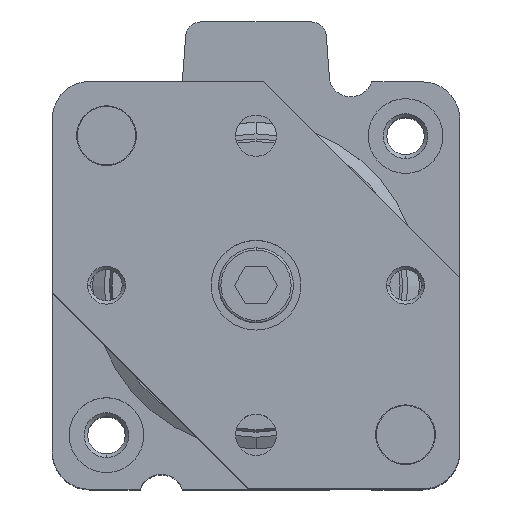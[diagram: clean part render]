
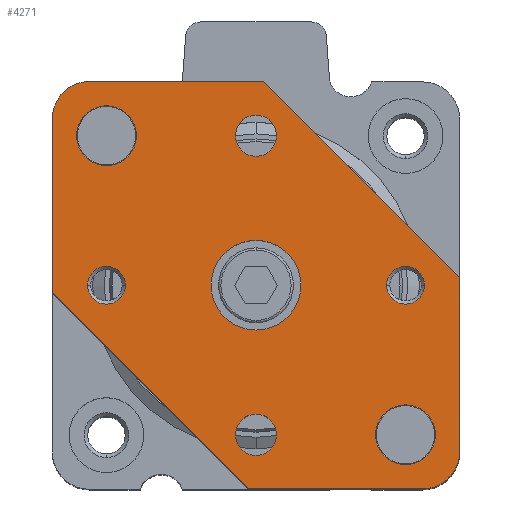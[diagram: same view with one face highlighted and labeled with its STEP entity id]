
A CAD part, top view. The second image highlights one B-rep face of the part: STEP entity #4271.
In plain terms, the highlighted planar face has unit normal (0, 0, 1).
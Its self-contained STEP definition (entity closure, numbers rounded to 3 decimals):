
#3211=CARTESIAN_POINT('',(0.,20.,0.));
#3212=DIRECTION('',(0.,0.,1.));
#3213=DIRECTION('',(-1.,0.,0.));
#3214=AXIS2_PLACEMENT_3D('',#3211,#3212,#3213);
#3216=CARTESIAN_POINT('',(0.,20.,0.));
#3217=DIRECTION('',(0.,0.,1.));
#3218=DIRECTION('',(1.,0.,0.));
#3219=AXIS2_PLACEMENT_3D('',#3216,#3217,#3218);
#3221=CARTESIAN_POINT('',(0.,-20.,0.));
#3222=DIRECTION('',(0.,0.,1.));
#3223=DIRECTION('',(-1.,0.,0.));
#3224=AXIS2_PLACEMENT_3D('',#3221,#3222,#3223);
#3226=CARTESIAN_POINT('',(0.,-20.,0.));
#3227=DIRECTION('',(0.,0.,1.));
#3228=DIRECTION('',(1.,0.,0.));
#3229=AXIS2_PLACEMENT_3D('',#3226,#3227,#3228);
#3231=DIRECTION('',(0.707,-0.707,0.));
#3232=VECTOR('',#3231,37.075);
#3233=CARTESIAN_POINT('',(1.034,27.25,0.));
#3234=LINE('',#3233,#3232);
#3235=DIRECTION('',(0.,-1.,0.));
#3236=VECTOR('',#3235,23.284);
#3237=CARTESIAN_POINT('',(27.25,1.034,0.));
#3238=LINE('',#3237,#3236);
#3239=CARTESIAN_POINT('',(22.25,-22.25,0.));
#3240=DIRECTION('',(0.,0.,-1.));
#3241=DIRECTION('',(1.,0.,0.));
#3242=AXIS2_PLACEMENT_3D('',#3239,#3240,#3241);
#3244=DIRECTION('',(-1.,0.,0.));
#3245=VECTOR('',#3244,23.284);
#3246=CARTESIAN_POINT('',(22.25,-27.25,0.));
#3247=LINE('',#3246,#3245);
#3248=DIRECTION('',(-0.707,0.707,0.));
#3249=VECTOR('',#3248,37.075);
#3250=CARTESIAN_POINT('',(-1.034,-27.25,0.));
#3251=LINE('',#3250,#3249);
#3252=DIRECTION('',(0.,1.,0.));
#3253=VECTOR('',#3252,23.284);
#3254=CARTESIAN_POINT('',(-27.25,-1.034,0.));
#3255=LINE('',#3254,#3253);
#3256=CARTESIAN_POINT('',(-22.25,22.25,0.));
#3257=DIRECTION('',(0.,0.,-1.));
#3258=DIRECTION('',(-1.,0.,0.));
#3259=AXIS2_PLACEMENT_3D('',#3256,#3257,#3258);
#3261=DIRECTION('',(1.,0.,0.));
#3262=VECTOR('',#3261,23.284);
#3263=CARTESIAN_POINT('',(-22.25,27.25,0.));
#3264=LINE('',#3263,#3262);
#3265=CARTESIAN_POINT('',(0.,0.,0.));
#3266=DIRECTION('',(0.,0.,1.));
#3267=DIRECTION('',(0.,1.,0.));
#3268=AXIS2_PLACEMENT_3D('',#3265,#3266,#3267);
#3270=CARTESIAN_POINT('',(0.,0.,0.));
#3271=DIRECTION('',(0.,0.,1.));
#3272=DIRECTION('',(0.,-1.,0.));
#3273=AXIS2_PLACEMENT_3D('',#3270,#3271,#3272);
#3285=CARTESIAN_POINT('',(-20.,20.,0.));
#3286=DIRECTION('',(0.,0.,1.));
#3287=DIRECTION('',(1.,0.,0.));
#3288=AXIS2_PLACEMENT_3D('',#3285,#3286,#3287);
#3290=CARTESIAN_POINT('',(-20.,20.,0.));
#3291=DIRECTION('',(0.,0.,1.));
#3292=DIRECTION('',(-1.,0.,0.));
#3293=AXIS2_PLACEMENT_3D('',#3290,#3291,#3292);
#3305=CARTESIAN_POINT('',(20.,-20.,0.));
#3306=DIRECTION('',(0.,0.,1.));
#3307=DIRECTION('',(1.,0.,0.));
#3308=AXIS2_PLACEMENT_3D('',#3305,#3306,#3307);
#3310=CARTESIAN_POINT('',(20.,-20.,0.));
#3311=DIRECTION('',(0.,0.,1.));
#3312=DIRECTION('',(-1.,0.,0.));
#3313=AXIS2_PLACEMENT_3D('',#3310,#3311,#3312);
#3478=CARTESIAN_POINT('',(20.,0.,0.));
#3479=DIRECTION('',(0.,0.,1.));
#3480=DIRECTION('',(1.,0.,0.));
#3481=AXIS2_PLACEMENT_3D('',#3478,#3479,#3480);
#3488=CARTESIAN_POINT('',(20.,0.,0.));
#3489=DIRECTION('',(0.,0.,1.));
#3490=DIRECTION('',(-1.,0.,0.));
#3491=AXIS2_PLACEMENT_3D('',#3488,#3489,#3490);
#3542=CARTESIAN_POINT('',(-20.,0.,0.));
#3543=DIRECTION('',(0.,0.,1.));
#3544=DIRECTION('',(1.,0.,0.));
#3545=AXIS2_PLACEMENT_3D('',#3542,#3543,#3544);
#3552=CARTESIAN_POINT('',(-20.,0.,0.));
#3553=DIRECTION('',(0.,0.,1.));
#3554=DIRECTION('',(-1.,0.,0.));
#3555=AXIS2_PLACEMENT_3D('',#3552,#3553,#3554);
#3989=CARTESIAN_POINT('',(-2.75,20.,0.));
#3990=CARTESIAN_POINT('',(2.75,20.,0.));
#3991=VERTEX_POINT('',#3989);
#3992=VERTEX_POINT('',#3990);
#3993=CARTESIAN_POINT('',(-2.75,-20.,0.));
#3994=CARTESIAN_POINT('',(2.75,-20.,0.));
#3995=VERTEX_POINT('',#3993);
#3996=VERTEX_POINT('',#3994);
#3997=CARTESIAN_POINT('',(-27.25,22.25,0.));
#3998=CARTESIAN_POINT('',(-22.25,27.25,0.));
#3999=VERTEX_POINT('',#3997);
#4000=VERTEX_POINT('',#3998);
#4001=CARTESIAN_POINT('',(27.25,-22.25,0.));
#4002=CARTESIAN_POINT('',(22.25,-27.25,0.));
#4003=VERTEX_POINT('',#4001);
#4004=VERTEX_POINT('',#4002);
#4013=CARTESIAN_POINT('',(1.034,27.25,0.));
#4014=CARTESIAN_POINT('',(27.25,1.034,0.));
#4015=VERTEX_POINT('',#4013);
#4016=VERTEX_POINT('',#4014);
#4017=CARTESIAN_POINT('',(-1.034,-27.25,0.));
#4018=CARTESIAN_POINT('',(-27.25,-1.034,0.));
#4019=VERTEX_POINT('',#4017);
#4020=VERTEX_POINT('',#4018);
#4029=CARTESIAN_POINT('',(-17.467,0.,0.));
#4030=CARTESIAN_POINT('',(-22.533,0.,0.));
#4031=VERTEX_POINT('',#4029);
#4032=VERTEX_POINT('',#4030);
#4037=CARTESIAN_POINT('',(22.533,0.,0.));
#4038=CARTESIAN_POINT('',(17.467,0.,0.));
#4039=VERTEX_POINT('',#4037);
#4040=VERTEX_POINT('',#4038);
#4077=CARTESIAN_POINT('',(0.,6.,0.));
#4078=CARTESIAN_POINT('',(0.,-6.,0.));
#4079=VERTEX_POINT('',#4077);
#4080=VERTEX_POINT('',#4078);
#4181=CARTESIAN_POINT('',(-16.,20.,0.));
#4182=CARTESIAN_POINT('',(-24.,20.,0.));
#4183=VERTEX_POINT('',#4181);
#4184=VERTEX_POINT('',#4182);
#4189=CARTESIAN_POINT('',(24.,-20.,0.));
#4190=CARTESIAN_POINT('',(16.,-20.,0.));
#4191=VERTEX_POINT('',#4189);
#4192=VERTEX_POINT('',#4190);
#4206=CARTESIAN_POINT('',(0.,0.,0.));
#4207=DIRECTION('',(0.,0.,1.));
#4208=DIRECTION('',(1.,0.,0.));
#4209=AXIS2_PLACEMENT_3D('',#4206,#4207,#4208);
#4210=PLANE('',#4209);
#4212=ORIENTED_EDGE('',*,*,#4211,.T.);
#4214=ORIENTED_EDGE('',*,*,#4213,.T.);
#4216=ORIENTED_EDGE('',*,*,#4215,.T.);
#4218=ORIENTED_EDGE('',*,*,#4217,.T.);
#4220=ORIENTED_EDGE('',*,*,#4219,.T.);
#4222=ORIENTED_EDGE('',*,*,#4221,.T.);
#4224=ORIENTED_EDGE('',*,*,#4223,.T.);
#4226=ORIENTED_EDGE('',*,*,#4225,.T.);
#4227=EDGE_LOOP('',(#4212,#4214,#4216,#4218,#4220,#4222,#4224,#4226));
#4228=FACE_OUTER_BOUND('',#4227,.F.);
#4230=ORIENTED_EDGE('',*,*,#4229,.T.);
#4232=ORIENTED_EDGE('',*,*,#4231,.T.);
#4233=EDGE_LOOP('',(#4230,#4232));
#4234=FACE_BOUND('',#4233,.F.);
#4236=ORIENTED_EDGE('',*,*,#4235,.T.);
#4238=ORIENTED_EDGE('',*,*,#4237,.T.);
#4239=EDGE_LOOP('',(#4236,#4238));
#4240=FACE_BOUND('',#4239,.F.);
#4242=ORIENTED_EDGE('',*,*,#4241,.T.);
#4244=ORIENTED_EDGE('',*,*,#4243,.T.);
#4245=EDGE_LOOP('',(#4242,#4244));
#4246=FACE_BOUND('',#4245,.F.);
#4248=ORIENTED_EDGE('',*,*,#4247,.T.);
#4250=ORIENTED_EDGE('',*,*,#4249,.T.);
#4251=EDGE_LOOP('',(#4248,#4250));
#4252=FACE_BOUND('',#4251,.F.);
#4254=ORIENTED_EDGE('',*,*,#4253,.T.);
#4256=ORIENTED_EDGE('',*,*,#4255,.T.);
#4257=EDGE_LOOP('',(#4254,#4256));
#4258=FACE_BOUND('',#4257,.F.);
#4260=ORIENTED_EDGE('',*,*,#4259,.T.);
#4262=ORIENTED_EDGE('',*,*,#4261,.T.);
#4263=EDGE_LOOP('',(#4260,#4262));
#4264=FACE_BOUND('',#4263,.F.);
#4266=ORIENTED_EDGE('',*,*,#4265,.T.);
#4268=ORIENTED_EDGE('',*,*,#4267,.T.);
#4269=EDGE_LOOP('',(#4266,#4268));
#4270=FACE_BOUND('',#4269,.F.);
#4271=ADVANCED_FACE('',(#4228,#4234,#4240,#4246,#4252,#4258,#4264,#4270),#4210,
.T.);
#3215=CIRCLE('',#3214,2.75);
#3220=CIRCLE('',#3219,2.75);
#3225=CIRCLE('',#3224,2.75);
#3230=CIRCLE('',#3229,2.75);
#3243=CIRCLE('',#3242,5.);
#3260=CIRCLE('',#3259,5.);
#3269=CIRCLE('',#3268,6.);
#3274=CIRCLE('',#3273,6.);
#3289=CIRCLE('',#3288,4.);
#3294=CIRCLE('',#3293,4.);
#3309=CIRCLE('',#3308,4.);
#3314=CIRCLE('',#3313,4.);
#3482=CIRCLE('',#3481,2.533);
#3492=CIRCLE('',#3491,2.533);
#3546=CIRCLE('',#3545,2.533);
#3556=CIRCLE('',#3555,2.533);
#4211=EDGE_CURVE('',#4015,#4016,#3234,.T.);
#4213=EDGE_CURVE('',#4016,#4003,#3238,.T.);
#4215=EDGE_CURVE('',#4003,#4004,#3243,.T.);
#4217=EDGE_CURVE('',#4004,#4019,#3247,.T.);
#4219=EDGE_CURVE('',#4019,#4020,#3251,.T.);
#4221=EDGE_CURVE('',#4020,#3999,#3255,.T.);
#4223=EDGE_CURVE('',#3999,#4000,#3260,.T.);
#4225=EDGE_CURVE('',#4000,#4015,#3264,.T.);
#4229=EDGE_CURVE('',#3991,#3992,#3215,.T.);
#4231=EDGE_CURVE('',#3992,#3991,#3220,.T.);
#4235=EDGE_CURVE('',#3995,#3996,#3225,.T.);
#4237=EDGE_CURVE('',#3996,#3995,#3230,.T.);
#4241=EDGE_CURVE('',#4040,#4039,#3492,.T.);
#4243=EDGE_CURVE('',#4039,#4040,#3482,.T.);
#4247=EDGE_CURVE('',#4032,#4031,#3556,.T.);
#4249=EDGE_CURVE('',#4031,#4032,#3546,.T.);
#4253=EDGE_CURVE('',#4079,#4080,#3269,.T.);
#4255=EDGE_CURVE('',#4080,#4079,#3274,.T.);
#4259=EDGE_CURVE('',#4183,#4184,#3289,.T.);
#4261=EDGE_CURVE('',#4184,#4183,#3294,.T.);
#4265=EDGE_CURVE('',#4191,#4192,#3309,.T.);
#4267=EDGE_CURVE('',#4192,#4191,#3314,.T.);
